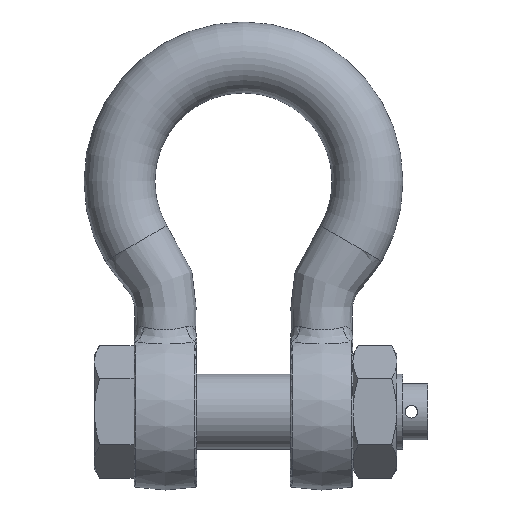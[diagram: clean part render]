
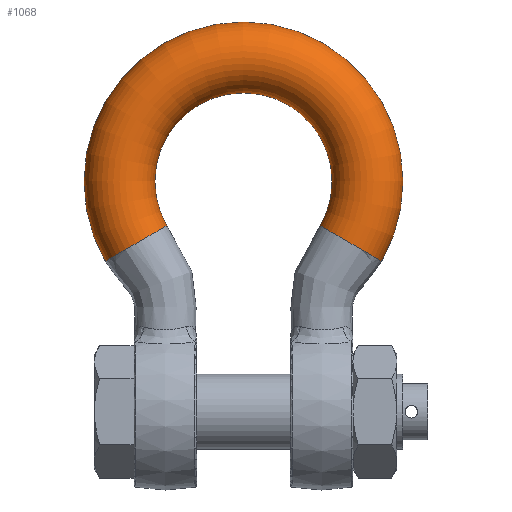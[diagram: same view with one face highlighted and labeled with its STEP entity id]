
A CAD part, top view. The second image highlights one B-rep face of the part: STEP entity #1068.
In plain terms, the highlighted toroidal (fillet/blend) face has major radius 59.5 mm and minor radius 17 mm.
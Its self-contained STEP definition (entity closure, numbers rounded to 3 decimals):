
#126=TOROIDAL_SURFACE('',#1217,59.5,17.);
#194=FACE_OUTER_BOUND('',#265,.T.);
#265=EDGE_LOOP('',(#844,#845,#846,#847,#848,#849));
#401=CIRCLE('',#1218,17.);
#402=CIRCLE('',#1219,17.);
#403=CIRCLE('',#1220,42.5);
#404=CIRCLE('',#1221,17.);
#405=CIRCLE('',#1222,17.);
#482=VERTEX_POINT('',#3105);
#483=VERTEX_POINT('',#3106);
#484=VERTEX_POINT('',#3109);
#485=VERTEX_POINT('',#3111);
#611=EDGE_CURVE('',#482,#483,#401,.T.);
#612=EDGE_CURVE('',#483,#482,#402,.T.);
#613=EDGE_CURVE('',#483,#484,#403,.T.);
#614=EDGE_CURVE('',#484,#485,#404,.T.);
#615=EDGE_CURVE('',#485,#484,#405,.T.);
#844=ORIENTED_EDGE('',*,*,#611,.F.);
#845=ORIENTED_EDGE('',*,*,#612,.F.);
#846=ORIENTED_EDGE('',*,*,#613,.T.);
#847=ORIENTED_EDGE('',*,*,#614,.T.);
#848=ORIENTED_EDGE('',*,*,#615,.T.);
#849=ORIENTED_EDGE('',*,*,#613,.F.);
#1068=ADVANCED_FACE('',(#194),#126,.T.);
#1217=AXIS2_PLACEMENT_3D('',#3104,#1402,#1403);
#1218=AXIS2_PLACEMENT_3D('',#3107,#1404,#1405);
#1219=AXIS2_PLACEMENT_3D('',#3108,#1406,#1407);
#1220=AXIS2_PLACEMENT_3D('',#3110,#1408,#1409);
#1221=AXIS2_PLACEMENT_3D('',#3112,#1410,#1411);
#1222=AXIS2_PLACEMENT_3D('',#3113,#1412,#1413);
#1402=DIRECTION('center_axis',(0.,0.,1.));
#1403=DIRECTION('ref_axis',(0.,1.,0.));
#1404=DIRECTION('center_axis',(0.5,-0.866,0.));
#1405=DIRECTION('ref_axis',(-0.866,-0.5,0.));
#1406=DIRECTION('center_axis',(0.5,-0.866,0.));
#1407=DIRECTION('ref_axis',(-0.866,-0.5,0.));
#1408=DIRECTION('center_axis',(0.,0.,-1.));
#1409=DIRECTION('ref_axis',(0.,1.,0.));
#1410=DIRECTION('center_axis',(0.5,0.866,0.));
#1411=DIRECTION('ref_axis',(0.866,-0.5,0.));
#1412=DIRECTION('center_axis',(0.5,0.866,0.));
#1413=DIRECTION('ref_axis',(0.866,-0.5,0.));
#3104=CARTESIAN_POINT('Origin',(0.,110.5,0.));
#3105=CARTESIAN_POINT('',(-66.251,72.25,0.));
#3106=CARTESIAN_POINT('',(-36.806,89.25,0.));
#3107=CARTESIAN_POINT('Origin',(-51.529,80.75,0.));
#3108=CARTESIAN_POINT('Origin',(-51.529,80.75,0.));
#3109=CARTESIAN_POINT('',(36.806,89.25,0.));
#3110=CARTESIAN_POINT('Origin',(0.,110.5,0.));
#3111=CARTESIAN_POINT('',(66.251,72.25,0.));
#3112=CARTESIAN_POINT('Origin',(51.529,80.75,0.));
#3113=CARTESIAN_POINT('Origin',(51.529,80.75,0.));
